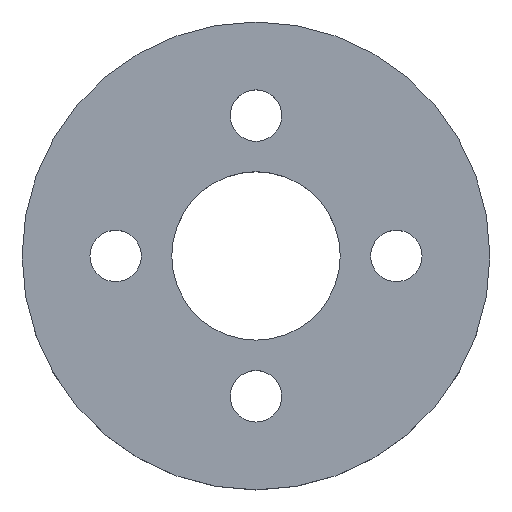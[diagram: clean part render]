
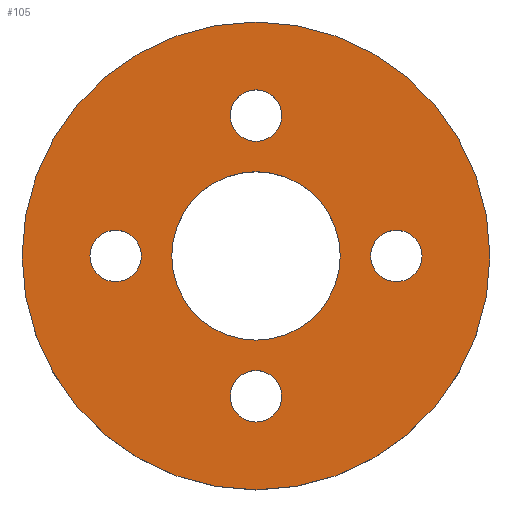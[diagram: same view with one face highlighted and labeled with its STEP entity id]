
A CAD part, top view. The second image highlights one B-rep face of the part: STEP entity #105.
In plain terms, the highlighted planar face has unit normal (0, 0, 1).
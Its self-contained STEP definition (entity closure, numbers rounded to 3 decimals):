
#21 = EDGE_CURVE('',#22,#22,#24,.T.);
#22 = VERTEX_POINT('',#23);
#23 = CARTESIAN_POINT('',(10.,0.,-18.4));
#24 = SURFACE_CURVE('',#25,(#30,#42),.PCURVE_S1.);
#25 = CIRCLE('',#26,10.);
#26 = AXIS2_PLACEMENT_3D('',#27,#28,#29);
#27 = CARTESIAN_POINT('',(0.,0.,-18.4));
#28 = DIRECTION('',(0.,0.,1.));
#29 = DIRECTION('',(1.,0.,-0.));
#30 = PCURVE('',#31,#36);
#31 = CYLINDRICAL_SURFACE('',#32,10.);
#32 = AXIS2_PLACEMENT_3D('',#33,#34,#35);
#33 = CARTESIAN_POINT('',(0.,0.,-21.4));
#34 = DIRECTION('',(0.,0.,1.));
#35 = DIRECTION('',(1.,0.,-0.));
#36 = DEFINITIONAL_REPRESENTATION('',(#37),#41);
#37 = LINE('',#38,#39);
#38 = CARTESIAN_POINT('',(0.,3.));
#39 = VECTOR('',#40,1.);
#40 = DIRECTION('',(1.,0.));
#41 = ( GEOMETRIC_REPRESENTATION_CONTEXT(2) 
PARAMETRIC_REPRESENTATION_CONTEXT() REPRESENTATION_CONTEXT('2D SPACE',''
  ) );
#42 = PCURVE('',#43,#48);
#43 = PLANE('',#44);
#44 = AXIS2_PLACEMENT_3D('',#45,#46,#47);
#45 = CARTESIAN_POINT('',(0.,0.,-18.4));
#46 = DIRECTION('',(0.,0.,1.));
#47 = DIRECTION('',(1.,0.,-0.));
#48 = DEFINITIONAL_REPRESENTATION('',(#49),#53);
#49 = CIRCLE('',#50,10.);
#50 = AXIS2_PLACEMENT_2D('',#51,#52);
#51 = CARTESIAN_POINT('',(0.,0.));
#52 = DIRECTION('',(1.,0.));
#53 = ( GEOMETRIC_REPRESENTATION_CONTEXT(2) 
PARAMETRIC_REPRESENTATION_CONTEXT() REPRESENTATION_CONTEXT('2D SPACE',''
  ) );
#105 = ADVANCED_FACE('',(#106,#109,#140,#171,#202,#233),#43,.T.);
#106 = FACE_BOUND('',#107,.T.);
#107 = EDGE_LOOP('',(#108));
#108 = ORIENTED_EDGE('',*,*,#21,.T.);
#109 = FACE_BOUND('',#110,.T.);
#110 = EDGE_LOOP('',(#111));
#111 = ORIENTED_EDGE('',*,*,#112,.F.);
#112 = EDGE_CURVE('',#113,#113,#115,.T.);
#113 = VERTEX_POINT('',#114);
#114 = CARTESIAN_POINT('',(1.1,-6.,-18.4));
#115 = SURFACE_CURVE('',#116,(#121,#128),.PCURVE_S1.);
#116 = CIRCLE('',#117,1.1);
#117 = AXIS2_PLACEMENT_3D('',#118,#119,#120);
#118 = CARTESIAN_POINT('',(0.,-6.,-18.4));
#119 = DIRECTION('',(0.,0.,1.));
#120 = DIRECTION('',(1.,0.,-0.));
#121 = PCURVE('',#43,#122);
#122 = DEFINITIONAL_REPRESENTATION('',(#123),#127);
#123 = CIRCLE('',#124,1.1);
#124 = AXIS2_PLACEMENT_2D('',#125,#126);
#125 = CARTESIAN_POINT('',(0.,-6.));
#126 = DIRECTION('',(1.,0.));
#127 = ( GEOMETRIC_REPRESENTATION_CONTEXT(2) 
PARAMETRIC_REPRESENTATION_CONTEXT() REPRESENTATION_CONTEXT('2D SPACE',''
  ) );
#128 = PCURVE('',#129,#134);
#129 = CYLINDRICAL_SURFACE('',#130,1.1);
#130 = AXIS2_PLACEMENT_3D('',#131,#132,#133);
#131 = CARTESIAN_POINT('',(0.,-6.,-21.41));
#132 = DIRECTION('',(0.,0.,1.));
#133 = DIRECTION('',(1.,0.,-0.));
#134 = DEFINITIONAL_REPRESENTATION('',(#135),#139);
#135 = LINE('',#136,#137);
#136 = CARTESIAN_POINT('',(0.,3.01));
#137 = VECTOR('',#138,1.);
#138 = DIRECTION('',(1.,0.));
#139 = ( GEOMETRIC_REPRESENTATION_CONTEXT(2) 
PARAMETRIC_REPRESENTATION_CONTEXT() REPRESENTATION_CONTEXT('2D SPACE',''
  ) );
#140 = FACE_BOUND('',#141,.T.);
#141 = EDGE_LOOP('',(#142));
#142 = ORIENTED_EDGE('',*,*,#143,.F.);
#143 = EDGE_CURVE('',#144,#144,#146,.T.);
#144 = VERTEX_POINT('',#145);
#145 = CARTESIAN_POINT('',(-4.9,0.,-18.4));
#146 = SURFACE_CURVE('',#147,(#152,#159),.PCURVE_S1.);
#147 = CIRCLE('',#148,1.1);
#148 = AXIS2_PLACEMENT_3D('',#149,#150,#151);
#149 = CARTESIAN_POINT('',(-6.,0.,-18.4));
#150 = DIRECTION('',(0.,0.,1.));
#151 = DIRECTION('',(1.,0.,-0.));
#152 = PCURVE('',#43,#153);
#153 = DEFINITIONAL_REPRESENTATION('',(#154),#158);
#154 = CIRCLE('',#155,1.1);
#155 = AXIS2_PLACEMENT_2D('',#156,#157);
#156 = CARTESIAN_POINT('',(-6.,0.));
#157 = DIRECTION('',(1.,0.));
#158 = ( GEOMETRIC_REPRESENTATION_CONTEXT(2) 
PARAMETRIC_REPRESENTATION_CONTEXT() REPRESENTATION_CONTEXT('2D SPACE',''
  ) );
#159 = PCURVE('',#160,#165);
#160 = CYLINDRICAL_SURFACE('',#161,1.1);
#161 = AXIS2_PLACEMENT_3D('',#162,#163,#164);
#162 = CARTESIAN_POINT('',(-6.,0.,-21.41));
#163 = DIRECTION('',(0.,0.,1.));
#164 = DIRECTION('',(1.,0.,-0.));
#165 = DEFINITIONAL_REPRESENTATION('',(#166),#170);
#166 = LINE('',#167,#168);
#167 = CARTESIAN_POINT('',(0.,3.01));
#168 = VECTOR('',#169,1.);
#169 = DIRECTION('',(1.,0.));
#170 = ( GEOMETRIC_REPRESENTATION_CONTEXT(2) 
PARAMETRIC_REPRESENTATION_CONTEXT() REPRESENTATION_CONTEXT('2D SPACE',''
  ) );
#171 = FACE_BOUND('',#172,.T.);
#172 = EDGE_LOOP('',(#173));
#173 = ORIENTED_EDGE('',*,*,#174,.F.);
#174 = EDGE_CURVE('',#175,#175,#177,.T.);
#175 = VERTEX_POINT('',#176);
#176 = CARTESIAN_POINT('',(3.6,0.,-18.4));
#177 = SURFACE_CURVE('',#178,(#183,#190),.PCURVE_S1.);
#178 = CIRCLE('',#179,3.6);
#179 = AXIS2_PLACEMENT_3D('',#180,#181,#182);
#180 = CARTESIAN_POINT('',(0.,0.,-18.4));
#181 = DIRECTION('',(0.,0.,1.));
#182 = DIRECTION('',(1.,0.,-0.));
#183 = PCURVE('',#43,#184);
#184 = DEFINITIONAL_REPRESENTATION('',(#185),#189);
#185 = CIRCLE('',#186,3.6);
#186 = AXIS2_PLACEMENT_2D('',#187,#188);
#187 = CARTESIAN_POINT('',(0.,0.));
#188 = DIRECTION('',(1.,0.));
#189 = ( GEOMETRIC_REPRESENTATION_CONTEXT(2) 
PARAMETRIC_REPRESENTATION_CONTEXT() REPRESENTATION_CONTEXT('2D SPACE',''
  ) );
#190 = PCURVE('',#191,#196);
#191 = CYLINDRICAL_SURFACE('',#192,3.6);
#192 = AXIS2_PLACEMENT_3D('',#193,#194,#195);
#193 = CARTESIAN_POINT('',(0.,0.,-21.41));
#194 = DIRECTION('',(0.,0.,1.));
#195 = DIRECTION('',(1.,0.,-0.));
#196 = DEFINITIONAL_REPRESENTATION('',(#197),#201);
#197 = LINE('',#198,#199);
#198 = CARTESIAN_POINT('',(0.,3.01));
#199 = VECTOR('',#200,1.);
#200 = DIRECTION('',(1.,0.));
#201 = ( GEOMETRIC_REPRESENTATION_CONTEXT(2) 
PARAMETRIC_REPRESENTATION_CONTEXT() REPRESENTATION_CONTEXT('2D SPACE',''
  ) );
#202 = FACE_BOUND('',#203,.T.);
#203 = EDGE_LOOP('',(#204));
#204 = ORIENTED_EDGE('',*,*,#205,.F.);
#205 = EDGE_CURVE('',#206,#206,#208,.T.);
#206 = VERTEX_POINT('',#207);
#207 = CARTESIAN_POINT('',(7.1,0.,-18.4));
#208 = SURFACE_CURVE('',#209,(#214,#221),.PCURVE_S1.);
#209 = CIRCLE('',#210,1.1);
#210 = AXIS2_PLACEMENT_3D('',#211,#212,#213);
#211 = CARTESIAN_POINT('',(6.,0.,-18.4));
#212 = DIRECTION('',(0.,0.,1.));
#213 = DIRECTION('',(1.,0.,-0.));
#214 = PCURVE('',#43,#215);
#215 = DEFINITIONAL_REPRESENTATION('',(#216),#220);
#216 = CIRCLE('',#217,1.1);
#217 = AXIS2_PLACEMENT_2D('',#218,#219);
#218 = CARTESIAN_POINT('',(6.,0.));
#219 = DIRECTION('',(1.,0.));
#220 = ( GEOMETRIC_REPRESENTATION_CONTEXT(2) 
PARAMETRIC_REPRESENTATION_CONTEXT() REPRESENTATION_CONTEXT('2D SPACE',''
  ) );
#221 = PCURVE('',#222,#227);
#222 = CYLINDRICAL_SURFACE('',#223,1.1);
#223 = AXIS2_PLACEMENT_3D('',#224,#225,#226);
#224 = CARTESIAN_POINT('',(6.,0.,-21.41));
#225 = DIRECTION('',(0.,0.,1.));
#226 = DIRECTION('',(1.,0.,-0.));
#227 = DEFINITIONAL_REPRESENTATION('',(#228),#232);
#228 = LINE('',#229,#230);
#229 = CARTESIAN_POINT('',(0.,3.01));
#230 = VECTOR('',#231,1.);
#231 = DIRECTION('',(1.,0.));
#232 = ( GEOMETRIC_REPRESENTATION_CONTEXT(2) 
PARAMETRIC_REPRESENTATION_CONTEXT() REPRESENTATION_CONTEXT('2D SPACE',''
  ) );
#233 = FACE_BOUND('',#234,.T.);
#234 = EDGE_LOOP('',(#235));
#235 = ORIENTED_EDGE('',*,*,#236,.F.);
#236 = EDGE_CURVE('',#237,#237,#239,.T.);
#237 = VERTEX_POINT('',#238);
#238 = CARTESIAN_POINT('',(1.1,6.,-18.4));
#239 = SURFACE_CURVE('',#240,(#245,#252),.PCURVE_S1.);
#240 = CIRCLE('',#241,1.1);
#241 = AXIS2_PLACEMENT_3D('',#242,#243,#244);
#242 = CARTESIAN_POINT('',(0.,6.,-18.4));
#243 = DIRECTION('',(0.,0.,1.));
#244 = DIRECTION('',(1.,0.,-0.));
#245 = PCURVE('',#43,#246);
#246 = DEFINITIONAL_REPRESENTATION('',(#247),#251);
#247 = CIRCLE('',#248,1.1);
#248 = AXIS2_PLACEMENT_2D('',#249,#250);
#249 = CARTESIAN_POINT('',(0.,6.));
#250 = DIRECTION('',(1.,0.));
#251 = ( GEOMETRIC_REPRESENTATION_CONTEXT(2) 
PARAMETRIC_REPRESENTATION_CONTEXT() REPRESENTATION_CONTEXT('2D SPACE',''
  ) );
#252 = PCURVE('',#253,#258);
#253 = CYLINDRICAL_SURFACE('',#254,1.1);
#254 = AXIS2_PLACEMENT_3D('',#255,#256,#257);
#255 = CARTESIAN_POINT('',(0.,6.,-21.41));
#256 = DIRECTION('',(0.,0.,1.));
#257 = DIRECTION('',(1.,0.,-0.));
#258 = DEFINITIONAL_REPRESENTATION('',(#259),#263);
#259 = LINE('',#260,#261);
#260 = CARTESIAN_POINT('',(0.,3.01));
#261 = VECTOR('',#262,1.);
#262 = DIRECTION('',(1.,0.));
#263 = ( GEOMETRIC_REPRESENTATION_CONTEXT(2) 
PARAMETRIC_REPRESENTATION_CONTEXT() REPRESENTATION_CONTEXT('2D SPACE',''
  ) );
